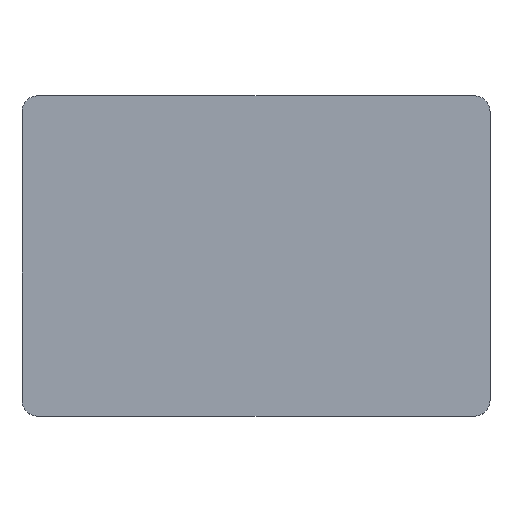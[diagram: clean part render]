
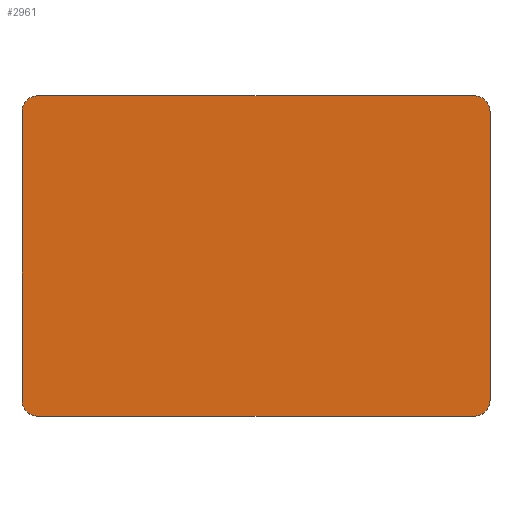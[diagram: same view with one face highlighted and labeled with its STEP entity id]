
A CAD part, top view. The second image highlights one B-rep face of the part: STEP entity #2961.
In plain terms, the highlighted planar face has unit normal (0, 0, 1).
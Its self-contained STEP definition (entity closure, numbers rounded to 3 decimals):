
#173 = LINE ( 'NONE', #472, #302 ) ;
#193 = AXIS2_PLACEMENT_3D ( 'NONE', #1514, #396, #2367 ) ;
#222 = VERTEX_POINT ( 'NONE', #2791 ) ;
#302 = VECTOR ( 'NONE', #506, 1000. ) ;
#396 = DIRECTION ( 'NONE',  ( 0., 0., 1. ) ) ;
#424 = EDGE_CURVE ( 'NONE', #1137, #2305, #2684, .T. ) ;
#439 = VECTOR ( 'NONE', #3055, 1000. ) ;
#472 = CARTESIAN_POINT ( 'NONE',  ( -131.684, -90.125, 0. ) ) ;
#506 = DIRECTION ( 'NONE',  ( 1., 0., 0. ) ) ;
#620 = VERTEX_POINT ( 'NONE', #2137 ) ;
#622 = EDGE_CURVE ( 'Edge32', #620, #1137, #674, .T. ) ;
#674 = CIRCLE ( 'NONE', #1624, 9. ) ;
#690 = DIRECTION ( 'NONE',  ( 1., 0., 0. ) ) ;
#777 = VECTOR ( 'NONE', #2758, 1000. ) ;
#818 = CARTESIAN_POINT ( 'NONE',  ( -122.684, -90.125, 0. ) ) ;
#831 = CARTESIAN_POINT ( 'NONE',  ( 122.683, 90.125, 0. ) ) ;
#896 = VERTEX_POINT ( 'NONE', #2892 ) ;
#960 = CARTESIAN_POINT ( 'NONE',  ( -131.684, 81.125, 0. ) ) ;
#1003 = CARTESIAN_POINT ( 'NONE',  ( 122.684, 81.125, 0. ) ) ;
#1017 = FACE_OUTER_BOUND ( 'NONE', #2528, .T. ) ;
#1137 = VERTEX_POINT ( 'NONE', #831 ) ;
#1208 = EDGE_CURVE ( 'NONE', #2465, #620, #3336, .T. ) ;
#1258 = DIRECTION ( 'NONE',  ( -1., 0., 0. ) ) ;
#1266 = DIRECTION ( 'NONE',  ( 0., 0., 1. ) ) ;
#1339 = DIRECTION ( 'NONE',  ( 0., 0., 1. ) ) ;
#1369 = ORIENTED_EDGE ( 'NONE', *, *, #3327, .T. ) ;
#1514 = CARTESIAN_POINT ( 'NONE',  ( -122.684, -81.125, 0. ) ) ;
#1527 = ORIENTED_EDGE ( 'NONE', *, *, #3451, .T. ) ;
#1624 = AXIS2_PLACEMENT_3D ( 'NONE', #1003, #3539, #2769 ) ;
#1675 = CARTESIAN_POINT ( 'NONE',  ( 122.683, -81.125, 0. ) ) ;
#1757 = EDGE_CURVE ( 'NONE', #222, #2889, #3365, .T. ) ;
#1781 = AXIS2_PLACEMENT_3D ( 'NONE', #2816, #1339, #3061 ) ;
#1785 = CARTESIAN_POINT ( 'NONE',  ( 131.684, -81.125, 0. ) ) ;
#1793 = CIRCLE ( 'NONE', #2983, 9. ) ;
#1923 = CARTESIAN_POINT ( 'NONE',  ( 131.684, 90.125, 0. ) ) ;
#1945 = ORIENTED_EDGE ( 'NONE', *, *, #424, .T. ) ;
#2137 = CARTESIAN_POINT ( 'NONE',  ( 131.684, 81.125, 0. ) ) ;
#2161 = LINE ( 'NONE', #3294, #777 ) ;
#2189 = DIRECTION ( 'NONE',  ( 0., 0., 1. ) ) ;
#2305 = VERTEX_POINT ( 'NONE', #3703 ) ;
#2367 = DIRECTION ( 'NONE',  ( 1., 0., 0. ) ) ;
#2378 = ORIENTED_EDGE ( 'NONE', *, *, #1757, .T. ) ;
#2465 = VERTEX_POINT ( 'NONE', #1785 ) ;
#2528 = EDGE_LOOP ( 'NONE', ( #1945, #2992, #1527, #2378, #1369, #2898, #3243, #3346 ) ) ;
#2684 = LINE ( 'NONE', #3256, #3358 ) ;
#2758 = DIRECTION ( 'NONE',  ( 0., -1., 0. ) ) ;
#2766 = DIRECTION ( 'NONE',  ( 1., 0., 0. ) ) ;
#2769 = DIRECTION ( 'NONE',  ( 1., 0., 0. ) ) ;
#2791 = CARTESIAN_POINT ( 'NONE',  ( -131.684, -81.125, 0. ) ) ;
#2816 = CARTESIAN_POINT ( 'NONE',  ( 0., 0., 0. ) ) ;
#2889 = VERTEX_POINT ( 'NONE', #818 ) ;
#2892 = CARTESIAN_POINT ( 'NONE',  ( 122.683, -90.125, 0. ) ) ;
#2898 = ORIENTED_EDGE ( 'NONE', *, *, #2913, .T. ) ;
#2913 = EDGE_CURVE ( 'NONE', #896, #2465, #3396, .T. ) ;
#2961 = ADVANCED_FACE ( 'Face2', ( #1017 ), #3094, .T. ) ;
#2974 = AXIS2_PLACEMENT_3D ( 'NONE', #1675, #2189, #2766 ) ;
#2983 = AXIS2_PLACEMENT_3D ( 'NONE', #3245, #1266, #690 ) ;
#2992 = ORIENTED_EDGE ( 'NONE', *, *, #3267, .T. ) ;
#3055 = DIRECTION ( 'NONE',  ( 0., 1., 0. ) ) ;
#3061 = DIRECTION ( 'NONE',  ( 1., 0., 0. ) ) ;
#3094 = PLANE ( 'NONE',  #1781 ) ;
#3243 = ORIENTED_EDGE ( 'NONE', *, *, #1208, .T. ) ;
#3245 = CARTESIAN_POINT ( 'NONE',  ( -122.684, 81.125, 0. ) ) ;
#3250 = VERTEX_POINT ( 'NONE', #960 ) ;
#3256 = CARTESIAN_POINT ( 'NONE',  ( -131.684, 90.125, 0. ) ) ;
#3267 = EDGE_CURVE ( 'Edge4', #2305, #3250, #1793, .T. ) ;
#3294 = CARTESIAN_POINT ( 'NONE',  ( -131.684, 90.125, 0. ) ) ;
#3327 = EDGE_CURVE ( 'NONE', #2889, #896, #173, .T. ) ;
#3336 = LINE ( 'NONE', #1923, #439 ) ;
#3346 = ORIENTED_EDGE ( 'NONE', *, *, #622, .T. ) ;
#3358 = VECTOR ( 'NONE', #1258, 1000. ) ;
#3365 = CIRCLE ( 'NONE', #193, 9. ) ;
#3396 = CIRCLE ( 'NONE', #2974, 9. ) ;
#3451 = EDGE_CURVE ( 'NONE', #3250, #222, #2161, .T. ) ;
#3539 = DIRECTION ( 'NONE',  ( 0., 0., 1. ) ) ;
#3703 = CARTESIAN_POINT ( 'NONE',  ( -122.684, 90.125, 0. ) ) ;
